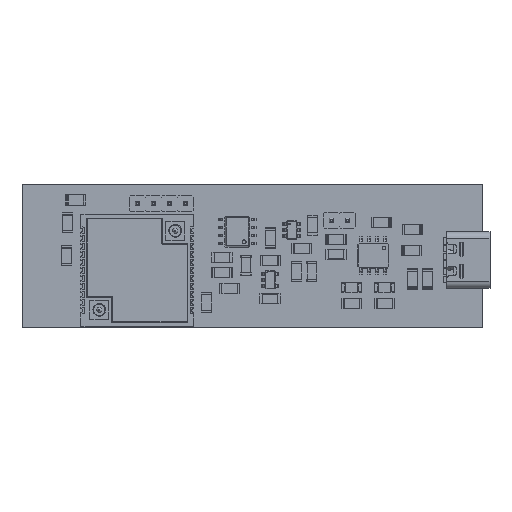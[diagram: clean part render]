
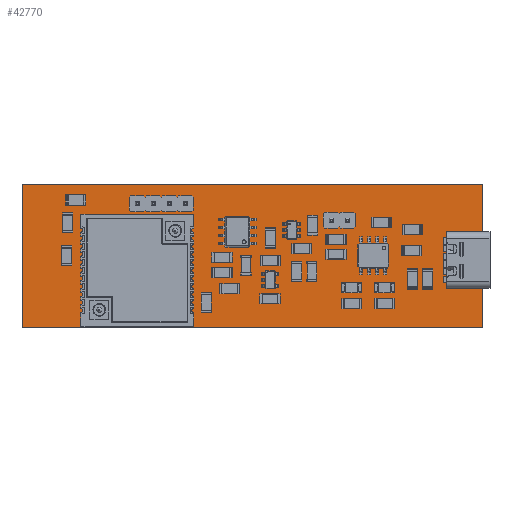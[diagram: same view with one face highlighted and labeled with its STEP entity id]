
A CAD part, top view. The second image highlights one B-rep face of the part: STEP entity #42770.
In plain terms, the highlighted planar face has unit normal (0, 0, 1).
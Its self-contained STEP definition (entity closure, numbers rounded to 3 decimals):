
#42518 = VERTEX_POINT('',#42519);
#42519 = CARTESIAN_POINT('',(110.642,-74.37,1.51));
#42525 = EDGE_CURVE('',#42518,#42526,#42528,.T.);
#42526 = VERTEX_POINT('',#42527);
#42527 = CARTESIAN_POINT('',(110.642,-93.362,1.51));
#42528 = LINE('',#42529,#42530);
#42529 = CARTESIAN_POINT('',(110.642,-74.37,1.51));
#42530 = VECTOR('',#42531,1.);
#42531 = DIRECTION('',(0.,-1.,0.));
#42558 = VERTEX_POINT('',#42559);
#42559 = CARTESIAN_POINT('',(110.642,-70.662,1.51));
#42565 = EDGE_CURVE('',#42558,#42518,#42566,.T.);
#42566 = LINE('',#42567,#42568);
#42567 = CARTESIAN_POINT('',(110.642,-70.662,1.51));
#42568 = VECTOR('',#42569,1.);
#42569 = DIRECTION('',(0.,-1.,0.));
#42587 = EDGE_CURVE('',#42526,#42588,#42590,.T.);
#42588 = VERTEX_POINT('',#42589);
#42589 = CARTESIAN_POINT('',(37.831,-93.362,1.51));
#42590 = LINE('',#42591,#42592);
#42591 = CARTESIAN_POINT('',(110.642,-93.362,1.51));
#42592 = VECTOR('',#42593,1.);
#42593 = DIRECTION('',(-1.,0.,0.));
#42770 = ADVANCED_FACE('',(#42771,#42790,#42801,#42812,#42823,#42834,
    #42845,#42856,#42867,#42878,#42889,#42900,#42911),#42922,.T.);
#42771 = FACE_BOUND('',#42772,.T.);
#42772 = EDGE_LOOP('',(#42773,#42774,#42775,#42783,#42789));
#42773 = ORIENTED_EDGE('',*,*,#42525,.F.);
#42774 = ORIENTED_EDGE('',*,*,#42565,.F.);
#42775 = ORIENTED_EDGE('',*,*,#42776,.F.);
#42776 = EDGE_CURVE('',#42777,#42558,#42779,.T.);
#42777 = VERTEX_POINT('',#42778);
#42778 = CARTESIAN_POINT('',(37.831,-70.662,1.51));
#42779 = LINE('',#42780,#42781);
#42780 = CARTESIAN_POINT('',(37.831,-70.662,1.51));
#42781 = VECTOR('',#42782,1.);
#42782 = DIRECTION('',(1.,0.,0.));
#42783 = ORIENTED_EDGE('',*,*,#42784,.F.);
#42784 = EDGE_CURVE('',#42588,#42777,#42785,.T.);
#42785 = LINE('',#42786,#42787);
#42786 = CARTESIAN_POINT('',(37.831,-93.362,1.51));
#42787 = VECTOR('',#42788,1.);
#42788 = DIRECTION('',(0.,1.,0.));
#42789 = ORIENTED_EDGE('',*,*,#42587,.F.);
#42790 = FACE_BOUND('',#42791,.T.);
#42791 = EDGE_LOOP('',(#42792));
#42792 = ORIENTED_EDGE('',*,*,#42793,.T.);
#42793 = EDGE_CURVE('',#42794,#42794,#42796,.T.);
#42794 = VERTEX_POINT('',#42795);
#42795 = CARTESIAN_POINT('',(92.131,-82.762,1.51));
#42796 = CIRCLE('',#42797,0.1);
#42797 = AXIS2_PLACEMENT_3D('',#42798,#42799,#42800);
#42798 = CARTESIAN_POINT('',(92.131,-82.662,1.51));
#42799 = DIRECTION('',(-0.,0.,-1.));
#42800 = DIRECTION('',(-0.,-1.,0.));
#42801 = FACE_BOUND('',#42802,.T.);
#42802 = EDGE_LOOP('',(#42803));
#42803 = ORIENTED_EDGE('',*,*,#42804,.T.);
#42804 = EDGE_CURVE('',#42805,#42805,#42807,.T.);
#42805 = VERTEX_POINT('',#42806);
#42806 = CARTESIAN_POINT('',(93.331,-82.762,1.51));
#42807 = CIRCLE('',#42808,0.1);
#42808 = AXIS2_PLACEMENT_3D('',#42809,#42810,#42811);
#42809 = CARTESIAN_POINT('',(93.331,-82.662,1.51));
#42810 = DIRECTION('',(-0.,0.,-1.));
#42811 = DIRECTION('',(-0.,-1.,0.));
#42812 = FACE_BOUND('',#42813,.T.);
#42813 = EDGE_LOOP('',(#42814));
#42814 = ORIENTED_EDGE('',*,*,#42815,.T.);
#42815 = EDGE_CURVE('',#42816,#42816,#42818,.T.);
#42816 = VERTEX_POINT('',#42817);
#42817 = CARTESIAN_POINT('',(94.531,-82.762,1.51));
#42818 = CIRCLE('',#42819,0.1);
#42819 = AXIS2_PLACEMENT_3D('',#42820,#42821,#42822);
#42820 = CARTESIAN_POINT('',(94.531,-82.662,1.51));
#42821 = DIRECTION('',(-0.,0.,-1.));
#42822 = DIRECTION('',(0.,-1.,0.));
#42823 = FACE_BOUND('',#42824,.T.);
#42824 = EDGE_LOOP('',(#42825));
#42825 = ORIENTED_EDGE('',*,*,#42826,.T.);
#42826 = EDGE_CURVE('',#42827,#42827,#42829,.T.);
#42827 = VERTEX_POINT('',#42828);
#42828 = CARTESIAN_POINT('',(92.131,-81.362,1.51));
#42829 = CIRCLE('',#42830,0.1);
#42830 = AXIS2_PLACEMENT_3D('',#42831,#42832,#42833);
#42831 = CARTESIAN_POINT('',(92.131,-81.262,1.51));
#42832 = DIRECTION('',(-0.,0.,-1.));
#42833 = DIRECTION('',(-0.,-1.,0.));
#42834 = FACE_BOUND('',#42835,.T.);
#42835 = EDGE_LOOP('',(#42836));
#42836 = ORIENTED_EDGE('',*,*,#42837,.T.);
#42837 = EDGE_CURVE('',#42838,#42838,#42840,.T.);
#42838 = VERTEX_POINT('',#42839);
#42839 = CARTESIAN_POINT('',(93.331,-81.362,1.51));
#42840 = CIRCLE('',#42841,0.1);
#42841 = AXIS2_PLACEMENT_3D('',#42842,#42843,#42844);
#42842 = CARTESIAN_POINT('',(93.331,-81.262,1.51));
#42843 = DIRECTION('',(-0.,0.,-1.));
#42844 = DIRECTION('',(-0.,-1.,0.));
#42845 = FACE_BOUND('',#42846,.T.);
#42846 = EDGE_LOOP('',(#42847));
#42847 = ORIENTED_EDGE('',*,*,#42848,.T.);
#42848 = EDGE_CURVE('',#42849,#42849,#42851,.T.);
#42849 = VERTEX_POINT('',#42850);
#42850 = CARTESIAN_POINT('',(94.531,-81.362,1.51));
#42851 = CIRCLE('',#42852,0.1);
#42852 = AXIS2_PLACEMENT_3D('',#42853,#42854,#42855);
#42853 = CARTESIAN_POINT('',(94.531,-81.262,1.51));
#42854 = DIRECTION('',(-0.,0.,-1.));
#42855 = DIRECTION('',(0.,-1.,0.));
#42856 = FACE_BOUND('',#42857,.T.);
#42857 = EDGE_LOOP('',(#42858));
#42858 = ORIENTED_EDGE('',*,*,#42859,.T.);
#42859 = EDGE_CURVE('',#42860,#42860,#42862,.T.);
#42860 = VERTEX_POINT('',#42861);
#42861 = CARTESIAN_POINT('',(56.021,-74.262,1.51));
#42862 = CIRCLE('',#42863,0.5);
#42863 = AXIS2_PLACEMENT_3D('',#42864,#42865,#42866);
#42864 = CARTESIAN_POINT('',(56.021,-73.762,1.51));
#42865 = DIRECTION('',(-0.,0.,-1.));
#42866 = DIRECTION('',(-0.,-1.,0.));
#42867 = FACE_BOUND('',#42868,.T.);
#42868 = EDGE_LOOP('',(#42869));
#42869 = ORIENTED_EDGE('',*,*,#42870,.T.);
#42870 = EDGE_CURVE('',#42871,#42871,#42873,.T.);
#42871 = VERTEX_POINT('',#42872);
#42872 = CARTESIAN_POINT('',(58.561,-74.262,1.51));
#42873 = CIRCLE('',#42874,0.5);
#42874 = AXIS2_PLACEMENT_3D('',#42875,#42876,#42877);
#42875 = CARTESIAN_POINT('',(58.561,-73.762,1.51));
#42876 = DIRECTION('',(-0.,0.,-1.));
#42877 = DIRECTION('',(-0.,-1.,0.));
#42878 = FACE_BOUND('',#42879,.T.);
#42879 = EDGE_LOOP('',(#42880));
#42880 = ORIENTED_EDGE('',*,*,#42881,.T.);
#42881 = EDGE_CURVE('',#42882,#42882,#42884,.T.);
#42882 = VERTEX_POINT('',#42883);
#42883 = CARTESIAN_POINT('',(61.101,-74.262,1.51));
#42884 = CIRCLE('',#42885,0.5);
#42885 = AXIS2_PLACEMENT_3D('',#42886,#42887,#42888);
#42886 = CARTESIAN_POINT('',(61.101,-73.762,1.51));
#42887 = DIRECTION('',(-0.,0.,-1.));
#42888 = DIRECTION('',(-0.,-1.,0.));
#42889 = FACE_BOUND('',#42890,.T.);
#42890 = EDGE_LOOP('',(#42891));
#42891 = ORIENTED_EDGE('',*,*,#42892,.T.);
#42892 = EDGE_CURVE('',#42893,#42893,#42895,.T.);
#42893 = VERTEX_POINT('',#42894);
#42894 = CARTESIAN_POINT('',(63.641,-74.262,1.51));
#42895 = CIRCLE('',#42896,0.5);
#42896 = AXIS2_PLACEMENT_3D('',#42897,#42898,#42899);
#42897 = CARTESIAN_POINT('',(63.641,-73.762,1.51));
#42898 = DIRECTION('',(-0.,0.,-1.));
#42899 = DIRECTION('',(-0.,-1.,0.));
#42900 = FACE_BOUND('',#42901,.T.);
#42901 = EDGE_LOOP('',(#42902));
#42902 = ORIENTED_EDGE('',*,*,#42903,.T.);
#42903 = EDGE_CURVE('',#42904,#42904,#42906,.T.);
#42904 = VERTEX_POINT('',#42905);
#42905 = CARTESIAN_POINT('',(86.691,-76.862,1.51));
#42906 = CIRCLE('',#42907,0.5);
#42907 = AXIS2_PLACEMENT_3D('',#42908,#42909,#42910);
#42908 = CARTESIAN_POINT('',(86.691,-76.362,1.51));
#42909 = DIRECTION('',(-0.,0.,-1.));
#42910 = DIRECTION('',(-0.,-1.,0.));
#42911 = FACE_BOUND('',#42912,.T.);
#42912 = EDGE_LOOP('',(#42913));
#42913 = ORIENTED_EDGE('',*,*,#42914,.T.);
#42914 = EDGE_CURVE('',#42915,#42915,#42917,.T.);
#42915 = VERTEX_POINT('',#42916);
#42916 = CARTESIAN_POINT('',(89.231,-76.862,1.51));
#42917 = CIRCLE('',#42918,0.5);
#42918 = AXIS2_PLACEMENT_3D('',#42919,#42920,#42921);
#42919 = CARTESIAN_POINT('',(89.231,-76.362,1.51));
#42920 = DIRECTION('',(-0.,0.,-1.));
#42921 = DIRECTION('',(-0.,-1.,0.));
#42922 = PLANE('',#42923);
#42923 = AXIS2_PLACEMENT_3D('',#42924,#42925,#42926);
#42924 = CARTESIAN_POINT('',(0.,0.,1.51));
#42925 = DIRECTION('',(0.,0.,1.));
#42926 = DIRECTION('',(1.,0.,-0.));
